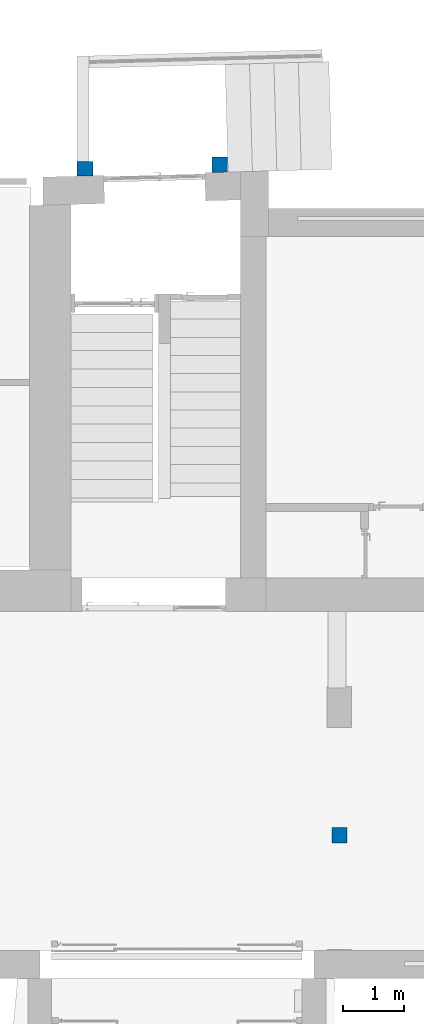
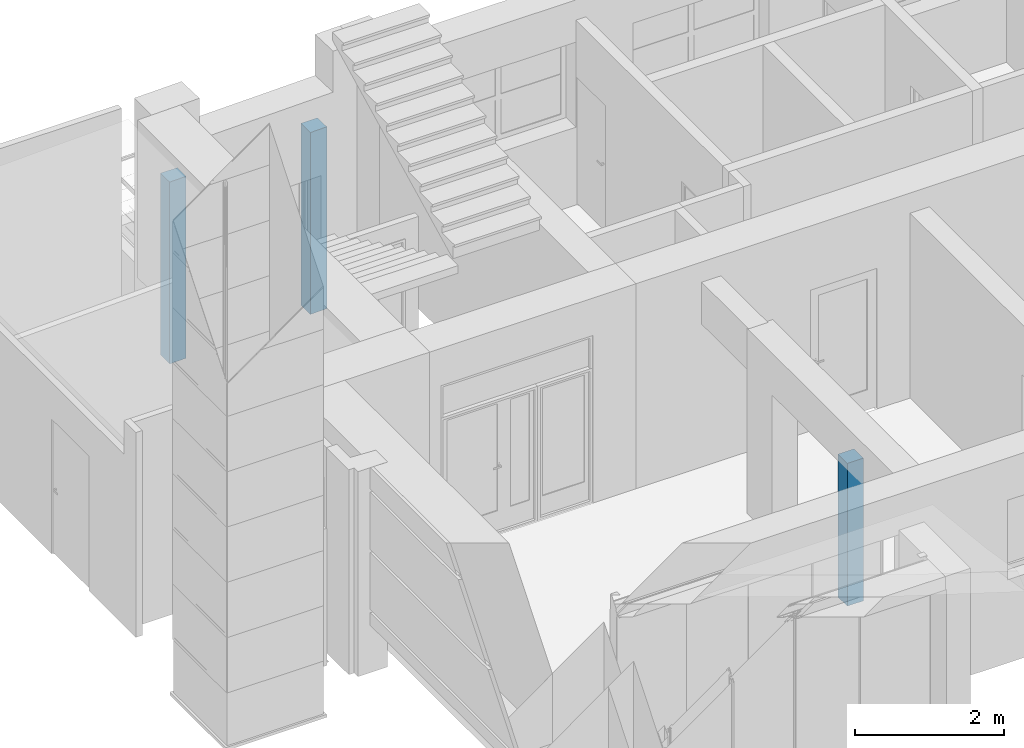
# One storey, part 1 of 49: 3 columns.
"""IFC2X3 building model written with IfcOpenShell, lengths in millimetres."""

from ifc_helpers import new_model, entity, si_unit, converted_unit, derived_unit, direction, frame, frame_2d, origin, place, context, subcontext, project, spatial, polyline, rectangle, outline, extrude, source, transform, mapped, material, type_object, type_shapes, element, save


model = new_model("IFC2X3")

# Units and contexts
model_context = context("Model", 3, precision=0.01, world=origin(), true_north=direction((6.12303176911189e-17, 1.0)))
body_context = subcontext(model_context, "Body", "Model", "MODEL_VIEW")
ifc_project = project(units=[si_unit("LENGTHUNIT", "METRE", prefix="MILLI"), si_unit("AREAUNIT", "SQUARE_METRE"), si_unit("VOLUMEUNIT", "CUBIC_METRE"), converted_unit("PLANEANGLEUNIT", "DEGREE", entity("IfcRatioMeasure", 0.0174532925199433), si_unit("PLANEANGLEUNIT", "RADIAN"), dimensions=[0, 0, 0, 0, 0, 0, 0]), si_unit("MASSUNIT", "GRAM", prefix="KILO"), derived_unit("MASSDENSITYUNIT", [(si_unit("MASSUNIT", "GRAM", prefix="KILO"), 1), (si_unit("LENGTHUNIT", "METRE"), -3)]), si_unit("TIMEUNIT", "SECOND"), si_unit("FREQUENCYUNIT", "HERTZ"), si_unit("THERMODYNAMICTEMPERATUREUNIT", "DEGREE_CELSIUS"), derived_unit("THERMALTRANSMITTANCEUNIT", [(si_unit("MASSUNIT", "GRAM", prefix="KILO"), 1), (si_unit("THERMODYNAMICTEMPERATUREUNIT", "KELVIN"), -1), (si_unit("TIMEUNIT", "SECOND"), -3)]), derived_unit("VOLUMETRICFLOWRATEUNIT", [(si_unit("LENGTHUNIT", "METRE"), 3), (si_unit("TIMEUNIT", "SECOND"), -1)]), si_unit("ELECTRICCURRENTUNIT", "AMPERE"), si_unit("ELECTRICVOLTAGEUNIT", "VOLT"), si_unit("POWERUNIT", "WATT"), si_unit("FORCEUNIT", "NEWTON", prefix="KILO"), si_unit("ILLUMINANCEUNIT", "LUX"), si_unit("LUMINOUSFLUXUNIT", "LUMEN"), si_unit("LUMINOUSINTENSITYUNIT", "CANDELA"), derived_unit("USERDEFINED", [(si_unit("MASSUNIT", "GRAM", prefix="KILO"), -1), (si_unit("LENGTHUNIT", "METRE"), -2), (si_unit("TIMEUNIT", "SECOND"), 3), (si_unit("LUMINOUSFLUXUNIT", "LUMEN"), 1)]), derived_unit("LINEARVELOCITYUNIT", [(si_unit("LENGTHUNIT", "METRE"), 1), (si_unit("TIMEUNIT", "SECOND"), -1)]), si_unit("PRESSUREUNIT", "PASCAL"), derived_unit("USERDEFINED", [(si_unit("LENGTHUNIT", "METRE"), -2), (si_unit("MASSUNIT", "GRAM", prefix="KILO"), 1), (si_unit("TIMEUNIT", "SECOND"), -2)])], contexts=[model_context])

# Site, building, storey
site_placement = place(None, frame((-151.875543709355, 2715.0, 0.0)))
site = spatial("IfcSite", under=ifc_project, at=site_placement, Name="Surface", CompositionType="ELEMENT")
building_placement = place(site_placement, origin())
building = spatial("IfcBuilding", under=site, at=building_placement, CompositionType="ELEMENT")
storey_placement = place(building_placement, origin())
storey = spatial("IfcBuildingStorey", under=building, at=storey_placement, Name="1 korrus", CompositionType="ELEMENT", Elevation=3.0969999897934e-10)

# Columns
ifc_material_1 = material(Name="GENEERILINE - KONSTRUKTRIOON")
column_type_1 = type_object("IfcColumnType", Name="GENEERILINE - KONSTRUKTRIOON 260 x 260", PredefinedType="COLUMN")
shared_shape_1 = source(origin(), body_context, "Body", "SweptSolid", [
    extrude(outline(polyline([(-119.796538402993, -130.0), (123.290696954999, -130.0), (116.30237985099, 130.0), (-119.796538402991, 130.0), (-119.796538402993, -130.0)])), frame((1994.54956111, 13260.798886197, -1200.0), z_axis=(0.0, 0.0, 1.0), x_axis=(0.0, -1.0, 0.0)), (0.0, 0.0, 1.0), 2972.66144163),
])
type_shapes(column_type_1, [shared_shape_1])
column_1_placement = place(storey_placement, origin())
element("IfcColumn", 1, at=column_1_placement, inside=storey, type_object=column_type_1, material=ifc_material_1, Name="POST - 002", ObjectType="GENEERILINE - KONSTRUKTRIOON 260 x 260", context=body_context, shape_type="MappedRepresentation", body=[
    mapped(shared_shape_1, transform((0.0, 0.0, 0.0), scale=1.0)),
])
column_type_2 = type_object("IfcColumnType", Name="GENEERILINE - KONSTRUKTRIOON 260 x 260", PredefinedType="COLUMN")
shared_shape_2 = source(origin(), body_context, "Body", "SweptSolid", [
    extrude(outline(polyline([(-124.491281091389, -130.0), (127.985439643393, -130.0), (120.997122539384, 130.0), (-124.491281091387, 130.0), (-124.491281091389, -130.0)])), frame((4202.60414913, 13324.8420352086, -1200.0), z_axis=(0.0, 0.0, 1.0), x_axis=(0.0, -1.0, 0.0)), (0.0, 0.0, 1.0), 2972.66144163),
])
type_shapes(column_type_2, [shared_shape_2])
column_2_placement = place(storey_placement, origin())
element("IfcColumn", 2, at=column_2_placement, inside=storey, type_object=column_type_2, material=ifc_material_1, Name="POST - 002", ObjectType="GENEERILINE - KONSTRUKTRIOON 260 x 260", context=body_context, shape_type="MappedRepresentation", body=[
    mapped(shared_shape_2, transform((0.0, 0.0, 0.0), scale=1.0)),
])
ifc_material_2 = material(Name="Betoon")
column_type_3 = type_object("IfcColumnType", Name="250x250", PredefinedType="COLUMN")
shared_shape_3 = source(origin(), body_context, "Body", "SweptSolid", [
    extrude(rectangle(XDim=250.0, YDim=249.999999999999, at=frame_2d((-2.70006239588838e-13, 0.0), x_axis=(1.0, 0.0))), frame((6162.49352947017, 2346.52936807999, 0.0), z_axis=(0.0, 0.0, 1.0), x_axis=(0.0, -1.0, 0.0)), (0.0, 0.0, 1.0), 2334.00000000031),
])
type_shapes(column_type_3, [shared_shape_3])
column_3_placement = place(storey_placement, origin())
element("IfcColumn", 3, at=column_3_placement, inside=storey, type_object=column_type_3, material=ifc_material_2, Name="Betoon post:250x250", ObjectType="250x250", context=body_context, shape_type="MappedRepresentation", body=[
    mapped(shared_shape_3, transform((0.0, 0.0, 0.0), scale=1.0)),
])

save(model, "model.ifc")
